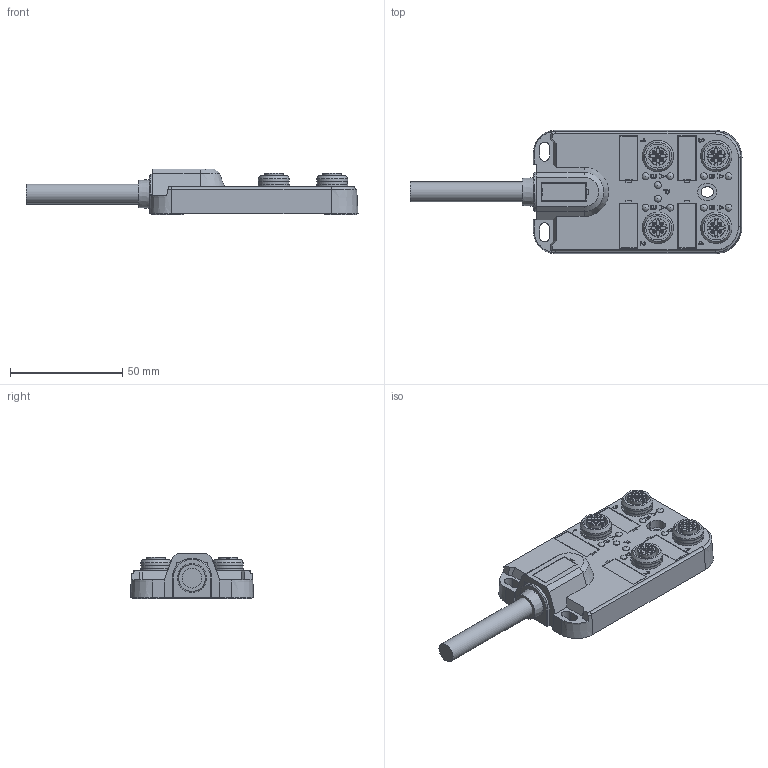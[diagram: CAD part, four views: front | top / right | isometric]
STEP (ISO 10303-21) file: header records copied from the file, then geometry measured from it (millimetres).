
FILE_DESCRIPTION(/* description */ (''),/* implementation_level */ '2;1');
FILE_NAME(/* name */ 'CAD_ESP4-12-2P-x_V0.stp',/* time_stamp */ '2023-05-31T10:20:18+08:00',/* author */ (''),/* organization */ (''),/* preprocessor_version */ 'ST-DEVELOPER v16',/* originating_system */ 'SIEMENS PLM Software NX 10.0',/* authorisation */ '');
FILE_SCHEMA (('AP203_CONFIGURATION_CONTROLLED_3D_DESIGN_OF_MECHANICAL_PARTS_AND_ASSEMBLIES_MIM_LF { 1 0 10303 403 2 1 2}'));
Products named in the file (1): chan323C54B6i0h8
Bounding box: 148 x 55 x 20.5 mm (x, y, z)
Volume: 53987.4 mm3; surface area: 41585.7 mm2
Topology: 42 solids, 45 shells, 3306 faces, 8997 edges, 5990 vertices
Faces by surface type: plane 2649, cylinder 353, bspline 160, cone 108, torus 26, sphere 10
Full cylindrical faces by diameter (mm): 0.8 x20, 1.4 x20, 1.6 x60, 1.7 x20, 1.76 x40, 2 x20, 2.2 x3, 4.3 x10, 5.5 x3, 6 x2, 8.3 x4, 8.9 x1, 10.7 x8, 12.5 x2, 13.463 x4, 13.85 x4, 14 x8, 15.5 x8
Entity records: 115974 total; most frequent: CARTESIAN_POINT 35821, ORIENTED_EDGE 16930, DIRECTION 14778, EDGE_CURVE 8465, LINE 6798, VECTOR 6798, VERTEX_POINT 5810, AXIS2_PLACEMENT_3D 3990
